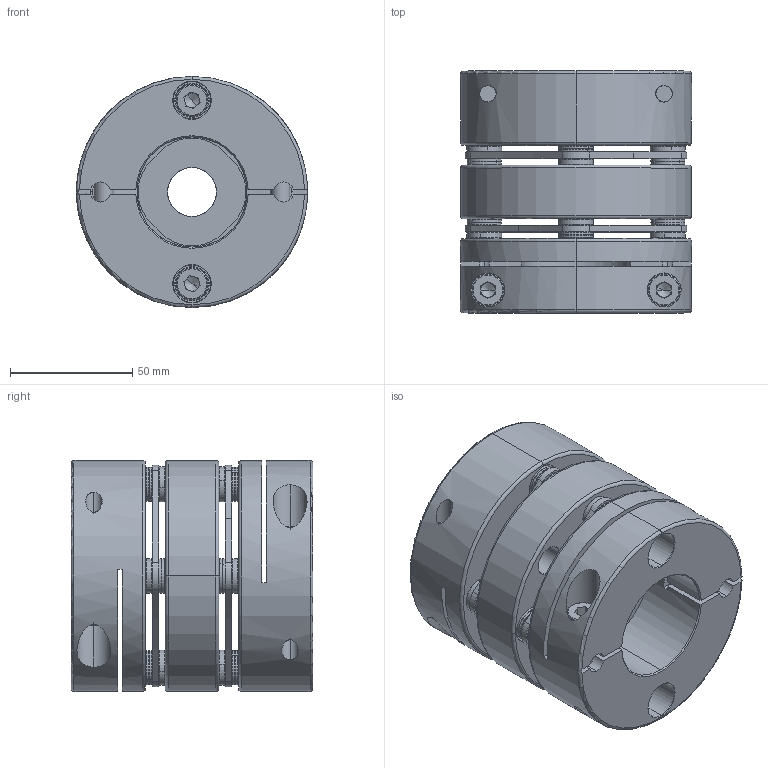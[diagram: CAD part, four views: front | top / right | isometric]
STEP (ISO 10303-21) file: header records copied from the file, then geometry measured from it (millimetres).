
FILE_DESCRIPTION (( 'STEP AP203' ), '1' );
FILE_NAME ('SDW-90C-20X45_203.STEP', '2013-01-14T01:25:13', ( 'MYCOM' ), ( '' ), 'SwSTEP 2.0', 'SolidWorks 2012', '' );
FILE_SCHEMA (( 'CONFIG_CONTROL_DESIGN' ));
Length unit declared in the file: millimetre
Products named in the file (1): SDW-90C-20X45_203
Bounding box: 94.5 x 98.9 x 94.5 mm (x, y, z)
Volume: 446687.6 mm3; surface area: 117572.1 mm2
Topology: 1 solids, 19 shells, 912 faces, 2168 edges, 1286 vertices
Faces by surface type: cylinder 302, plane 250, torus 230, cone 130
Entity records: 27539 total; most frequent: CARTESIAN_POINT 5568, DIRECTION 5146, ORIENTED_EDGE 4288, AXIS2_PLACEMENT_3D 2152, EDGE_CURVE 2144, VERTEX_POINT 1286, CIRCLE 1239, EDGE_LOOP 1014
